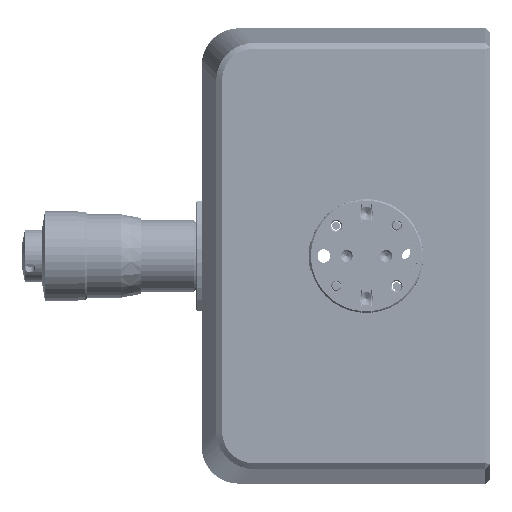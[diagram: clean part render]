
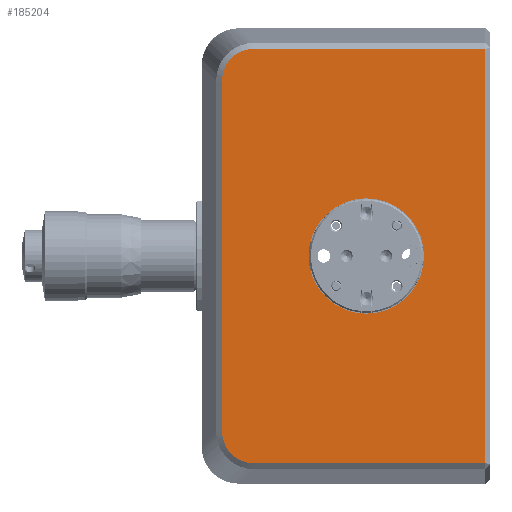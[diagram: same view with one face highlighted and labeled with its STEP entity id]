
A CAD part, left-side view. The second image highlights one B-rep face of the part: STEP entity #185204.
In plain terms, the highlighted planar face has unit normal (-1, 0, 0).
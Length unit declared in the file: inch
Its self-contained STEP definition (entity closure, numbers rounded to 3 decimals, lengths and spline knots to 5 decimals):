
#1549 = EDGE_LOOP ( 'NONE', ( #275898, #164867 ) ) ;
#2938 = DIRECTION ( 'NONE',  ( -1., 0., 0. ) ) ;
#12432 = CARTESIAN_POINT ( 'NONE',  ( -4.25, -6.738, -1.32336 ) ) ;
#16211 = DIRECTION ( 'NONE',  ( 1., 0., 0. ) ) ;
#16749 = ORIENTED_EDGE ( 'NONE', *, *, #272160, .T. ) ;
#18919 = CARTESIAN_POINT ( 'NONE',  ( -4.25, -6.65778, -1.15616 ) ) ;
#20560 = ORIENTED_EDGE ( 'NONE', *, *, #225996, .T. ) ;
#20743 = ORIENTED_EDGE ( 'NONE', *, *, #129541, .T. ) ;
#30552 = LINE ( 'NONE', #143583, #318469 ) ;
#32174 = AXIS2_PLACEMENT_3D ( 'NONE', #114196, #2938, #112376 ) ;
#37942 = LINE ( 'NONE', #345877, #173856 ) ;
#41988 = VERTEX_POINT ( 'NONE', #94752 ) ;
#42153 = CARTESIAN_POINT ( 'NONE',  ( -4.25, -6.6995, -1.28485 ) ) ;
#43996 = CARTESIAN_POINT ( 'NONE',  ( -4.25, -6.65778, -1.15616 ) ) ;
#44566 = CARTESIAN_POINT ( 'NONE',  ( -4.25, -7.60786, 0. ) ) ;
#47562 = B_SPLINE_CURVE_WITH_KNOTS ( 'NONE', 3,
 ( #302425, #189184, #196474, #309692, #53821, #361886, #252312, #246802, #330237, #52007 ),
 .UNSPECIFIED., .F., .F.,
 ( 4, 2, 2, 2, 4 ),
 ( 0., 0.25, 0.5, 0.75, 1. ),
 .UNSPECIFIED. ) ;
#49650 = VERTEX_POINT ( 'NONE', #105242 ) ;
#52007 = CARTESIAN_POINT ( 'NONE',  ( -4.25, -6.65778, 1.15616 ) ) ;
#52299 = VERTEX_POINT ( 'NONE', #302373 ) ;
#53821 = CARTESIAN_POINT ( 'NONE',  ( -4.25, -6.738, 1.32336 ) ) ;
#60379 = EDGE_LOOP ( 'NONE', ( #20743, #98309, #16749, #20560, #338751, #169674 ) ) ;
#68692 = DIRECTION ( 'NONE',  ( 0., 0., 1. ) ) ;
#71782 = CARTESIAN_POINT ( 'NONE',  ( -4.25, -6.66321, -1.21114 ) ) ;
#71838 = VERTEX_POINT ( 'NONE', #239770 ) ;
#73339 = DIRECTION ( 'NONE',  ( 0., 0., 1. ) ) ;
#89432 = VERTEX_POINT ( 'NONE', #18919 ) ;
#91765 = DIRECTION ( 'NONE',  ( 0., 0., -1. ) ) ;
#94752 = CARTESIAN_POINT ( 'NONE',  ( -4.25, -7.60786, 0.38 ) ) ;
#95749 = VERTEX_POINT ( 'NONE', #253833 ) ;
#97736 = CARTESIAN_POINT ( 'NONE',  ( -4.25, -6.83915, -1.36508 ) ) ;
#98309 = ORIENTED_EDGE ( 'NONE', *, *, #353872, .T. ) ;
#105242 = CARTESIAN_POINT ( 'NONE',  ( -4.25, -6.65778, 1.15616 ) ) ;
#105461 = DIRECTION ( 'NONE',  ( 0., 1., 0. ) ) ;
#112376 = DIRECTION ( 'NONE',  ( 0., 0., 1. ) ) ;
#114196 = CARTESIAN_POINT ( 'NONE',  ( -4.25, -7.60786, 0. ) ) ;
#115540 = CARTESIAN_POINT ( 'NONE',  ( -4.25, -7.60786, -0.38 ) ) ;
#121943 = CARTESIAN_POINT ( 'NONE',  ( -4.25, -6.76124, -1.33884 ) ) ;
#129388 = FACE_BOUND ( 'NONE', #1549, .T. ) ;
#129541 = EDGE_CURVE ( 'NONE', #89432, #71838, #222170, .T. ) ;
#136909 = LINE ( 'NONE', #196169, #232145 ) ;
#139103 = CIRCLE ( 'NONE', #281377, 0.38 ) ;
#143583 = CARTESIAN_POINT ( 'NONE',  ( -4.25, -7.47286, -1.36508 ) ) ;
#164867 = ORIENTED_EDGE ( 'NONE', *, *, #283316, .F. ) ;
#168355 = VERTEX_POINT ( 'NONE', #270346 ) ;
#169674 = ORIENTED_EDGE ( 'NONE', *, *, #355688, .T. ) ;
#173856 = VECTOR ( 'NONE', #91765, 39.37008 ) ;
#185204 = ADVANCED_FACE ( 'NONE', ( #129388, #237112 ), #214702, .F. ) ;
#186825 = DIRECTION ( 'NONE',  ( 0., 0., -1. ) ) ;
#189184 = CARTESIAN_POINT ( 'NONE',  ( -4.25, -6.83921, 1.36508 ) ) ;
#196169 = CARTESIAN_POINT ( 'NONE',  ( -4.25, -7.47286, 1.36508 ) ) ;
#196474 = CARTESIAN_POINT ( 'NONE',  ( -4.25, -6.81171, 1.35964 ) ) ;
#203449 = EDGE_CURVE ( 'NONE', #168355, #49650, #47562, .T. ) ;
#207233 = CARTESIAN_POINT ( 'NONE',  ( -4.25, -6.8667, -1.36508 ) ) ;
#212856 = CARTESIAN_POINT ( 'NONE',  ( -4.25, -7.47286, 0. ) ) ;
#214702 = PLANE ( 'NONE',  #352883 ) ;
#222170 = B_SPLINE_CURVE_WITH_KNOTS ( 'NONE', 3,
 ( #43996, #268444, #71782, #294395, #42153, #12432, #121943, #236972, #97736, #207233 ),
 .UNSPECIFIED., .F., .F.,
 ( 4, 2, 2, 2, 4 ),
 ( 0., 0.25, 0.5, 0.75, 1. ),
 .UNSPECIFIED. ) ;
#225996 = EDGE_CURVE ( 'NONE', #95749, #168355, #136909, .T. ) ;
#228914 = EDGE_CURVE ( 'NONE', #41988, #337014, #346170, .T. ) ;
#232145 = VECTOR ( 'NONE', #105461, 39.37008 ) ;
#236972 = CARTESIAN_POINT ( 'NONE',  ( -4.25, -6.81171, -1.35965 ) ) ;
#237112 = FACE_OUTER_BOUND ( 'NONE', #60379, .T. ) ;
#239770 = CARTESIAN_POINT ( 'NONE',  ( -4.25, -6.8667, -1.36508 ) ) ;
#241203 = DIRECTION ( 'NONE',  ( -1., 0., 0. ) ) ;
#246802 = CARTESIAN_POINT ( 'NONE',  ( -4.25, -6.66321, 1.21115 ) ) ;
#252312 = CARTESIAN_POINT ( 'NONE',  ( -4.25, -6.68401, 1.26162 ) ) ;
#253833 = CARTESIAN_POINT ( 'NONE',  ( -4.25, -8.39286, 1.36508 ) ) ;
#256869 = DIRECTION ( 'NONE',  ( 0., -1., 0. ) ) ;
#268444 = CARTESIAN_POINT ( 'NONE',  ( -4.25, -6.65778, -1.18364 ) ) ;
#270346 = CARTESIAN_POINT ( 'NONE',  ( -4.25, -6.8667, 1.36508 ) ) ;
#272160 = EDGE_CURVE ( 'NONE', #52299, #95749, #327481, .T. ) ;
#275898 = ORIENTED_EDGE ( 'NONE', *, *, #228914, .F. ) ;
#281377 = AXIS2_PLACEMENT_3D ( 'NONE', #44566, #241203, #68692 ) ;
#283316 = EDGE_CURVE ( 'NONE', #337014, #41988, #139103, .T. ) ;
#294395 = CARTESIAN_POINT ( 'NONE',  ( -4.25, -6.68401, -1.26162 ) ) ;
#302373 = CARTESIAN_POINT ( 'NONE',  ( -4.25, -8.39286, -1.36508 ) ) ;
#302425 = CARTESIAN_POINT ( 'NONE',  ( -4.25, -6.8667, 1.36508 ) ) ;
#309692 = CARTESIAN_POINT ( 'NONE',  ( -4.25, -6.76124, 1.33885 ) ) ;
#318469 = VECTOR ( 'NONE', #256869, 39.37008 ) ;
#327481 = LINE ( 'NONE', #349857, #343555 ) ;
#330237 = CARTESIAN_POINT ( 'NONE',  ( -4.25, -6.65778, 1.1837 ) ) ;
#337014 = VERTEX_POINT ( 'NONE', #115540 ) ;
#338751 = ORIENTED_EDGE ( 'NONE', *, *, #203449, .T. ) ;
#343555 = VECTOR ( 'NONE', #73339, 39.37008 ) ;
#345877 = CARTESIAN_POINT ( 'NONE',  ( -4.25, -6.65778, 0. ) ) ;
#346170 = CIRCLE ( 'NONE', #32174, 0.38 ) ;
#349857 = CARTESIAN_POINT ( 'NONE',  ( -4.25, -8.39286, 0. ) ) ;
#352883 = AXIS2_PLACEMENT_3D ( 'NONE', #212856, #16211, #186825 ) ;
#353872 = EDGE_CURVE ( 'NONE', #71838, #52299, #30552, .T. ) ;
#355688 = EDGE_CURVE ( 'NONE', #49650, #89432, #37942, .T. ) ;
#361886 = CARTESIAN_POINT ( 'NONE',  ( -4.25, -6.6995, 1.28486 ) ) ;
